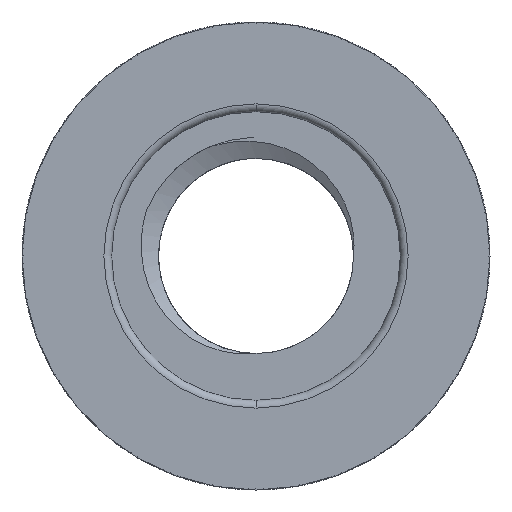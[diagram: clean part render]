
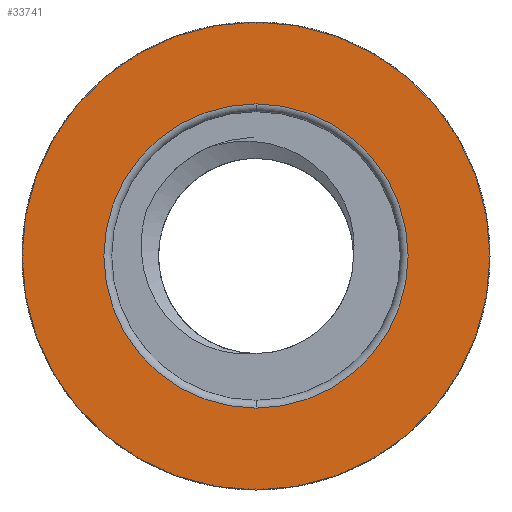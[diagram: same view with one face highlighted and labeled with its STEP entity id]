
A CAD part, front view. The second image highlights one B-rep face of the part: STEP entity #33741.
In plain terms, the highlighted planar face has unit normal (0, -1, 0).
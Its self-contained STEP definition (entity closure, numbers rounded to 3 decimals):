
#617 = EDGE_CURVE ( 'NONE', #8491, #26916, #56680, .T. ) ;
#2020 = DIRECTION ( 'NONE',  ( 0., -1., 0. ) ) ;
#2964 = CARTESIAN_POINT ( 'NONE',  ( 0., 0., -3.9 ) ) ;
#3747 = DIRECTION ( 'NONE',  ( 0., 1., 0. ) ) ;
#5827 = FACE_BOUND ( 'NONE', #10918, .T. ) ;
#7039 = DIRECTION ( 'NONE',  ( 0., 0., -1. ) ) ;
#8491 = VERTEX_POINT ( 'NONE', #2964 ) ;
#10398 = CARTESIAN_POINT ( 'NONE',  ( 0., 0., -6. ) ) ;
#10865 = VERTEX_POINT ( 'NONE', #58795 ) ;
#10918 = EDGE_LOOP ( 'NONE', ( #24232, #51613 ) ) ;
#11281 = FACE_OUTER_BOUND ( 'NONE', #52954, .T. ) ;
#11507 = AXIS2_PLACEMENT_3D ( 'NONE', #40058, #3747, #36122 ) ;
#11689 = DIRECTION ( 'NONE',  ( 0., 0., -1. ) ) ;
#12125 = CIRCLE ( 'NONE', #39125, 6. ) ;
#12292 = CARTESIAN_POINT ( 'NONE',  ( 0., 0., 6. ) ) ;
#12477 = DIRECTION ( 'NONE',  ( 0., 0., -1. ) ) ;
#14032 = ORIENTED_EDGE ( 'NONE', *, *, #38523, .T. ) ;
#20482 = DIRECTION ( 'NONE',  ( 0., 0., -1. ) ) ;
#20651 = DIRECTION ( 'NONE',  ( 0., -1., 0. ) ) ;
#22727 = DIRECTION ( 'NONE',  ( 0., 1., 0. ) ) ;
#24232 = ORIENTED_EDGE ( 'NONE', *, *, #617, .T. ) ;
#25168 = PLANE ( 'NONE',  #46491 ) ;
#25207 = EDGE_CURVE ( 'NONE', #26916, #8491, #59746, .T. ) ;
#26373 = CARTESIAN_POINT ( 'NONE',  ( 0., 0., 0. ) ) ;
#26916 = VERTEX_POINT ( 'NONE', #49491 ) ;
#28676 = AXIS2_PLACEMENT_3D ( 'NONE', #34658, #53044, #11689 ) ;
#30682 = ORIENTED_EDGE ( 'NONE', *, *, #52866, .T. ) ;
#33741 = ADVANCED_FACE ( 'NONE', ( #5827, #11281 ), #25168, .T. ) ;
#34658 = CARTESIAN_POINT ( 'NONE',  ( 0., 0., 0. ) ) ;
#36122 = DIRECTION ( 'NONE',  ( 0., 0., -1. ) ) ;
#38523 = EDGE_CURVE ( 'NONE', #51156, #10865, #12125, .T. ) ;
#39125 = AXIS2_PLACEMENT_3D ( 'NONE', #43412, #2020, #20482 ) ;
#40058 = CARTESIAN_POINT ( 'NONE',  ( 0., 0., 0. ) ) ;
#43412 = CARTESIAN_POINT ( 'NONE',  ( 0., 0., 0. ) ) ;
#46491 = AXIS2_PLACEMENT_3D ( 'NONE', #10398, #20651, #7039 ) ;
#47031 = AXIS2_PLACEMENT_3D ( 'NONE', #26373, #22727, #12477 ) ;
#49491 = CARTESIAN_POINT ( 'NONE',  ( 0., 0., 3.9 ) ) ;
#51156 = VERTEX_POINT ( 'NONE', #12292 ) ;
#51613 = ORIENTED_EDGE ( 'NONE', *, *, #25207, .T. ) ;
#52866 = EDGE_CURVE ( 'NONE', #10865, #51156, #55641, .T. ) ;
#52954 = EDGE_LOOP ( 'NONE', ( #30682, #14032 ) ) ;
#53044 = DIRECTION ( 'NONE',  ( 0., -1., 0. ) ) ;
#55641 = CIRCLE ( 'NONE', #28676, 6. ) ;
#56680 = CIRCLE ( 'NONE', #47031, 3.9 ) ;
#58795 = CARTESIAN_POINT ( 'NONE',  ( 0., 0., -6. ) ) ;
#59746 = CIRCLE ( 'NONE', #11507, 3.9 ) ;
